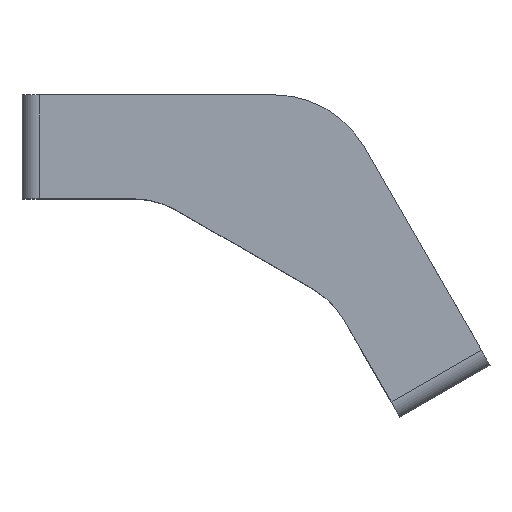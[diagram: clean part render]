
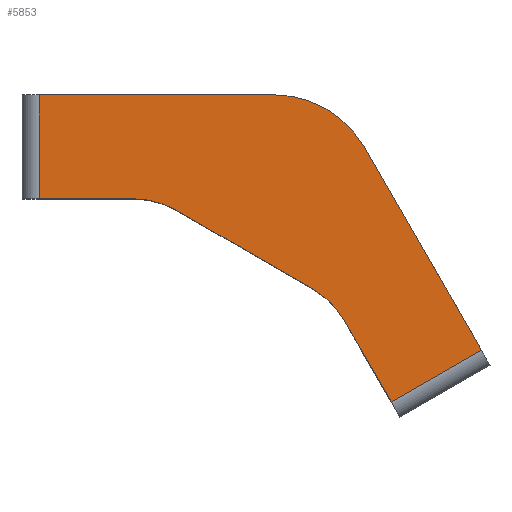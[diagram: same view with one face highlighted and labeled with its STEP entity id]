
A CAD part, top view. The second image highlights one B-rep face of the part: STEP entity #5853.
In plain terms, the highlighted planar face has unit normal (0, 0, 1).
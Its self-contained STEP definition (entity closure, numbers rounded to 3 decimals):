
#154 = DIRECTION ( 'NONE',  ( 0., 0., -1. ) ) ;
#298 = CARTESIAN_POINT ( 'NONE',  ( 3.464, 6., 10. ) ) ;
#313 = CIRCLE ( 'NONE', #2858, 5. ) ;
#558 = CARTESIAN_POINT ( 'NONE',  ( -1.732, 3., 10. ) ) ;
#1213 = DIRECTION ( 'NONE',  ( 0.5, -0.866, 0. ) ) ;
#1246 = EDGE_CURVE ( 'NONE', #1857, #3808, #1535, .T. ) ;
#1260 = LINE ( 'NONE', #558, #1425 ) ;
#1365 = CARTESIAN_POINT ( 'NONE',  ( -0.59, 13.021, 10. ) ) ;
#1425 = VECTOR ( 'NONE', #1213, 1000. ) ;
#1513 = CARTESIAN_POINT ( 'NONE',  ( -3.304, 17.722, 10. ) ) ;
#1535 = LINE ( 'NONE', #2320, #7571 ) ;
#1538 = ORIENTED_EDGE ( 'NONE', *, *, #4193, .T. ) ;
#1708 = PLANE ( 'NONE',  #6805 ) ;
#1709 = DIRECTION ( 'NONE',  ( 1., 0., 0. ) ) ;
#1857 = VERTEX_POINT ( 'NONE', #8983 ) ;
#2029 = CARTESIAN_POINT ( 'NONE',  ( -8.5, 14.722, 10. ) ) ;
#2076 = EDGE_CURVE ( 'NONE', #3302, #4692, #2698, .T. ) ;
#2113 = CIRCLE ( 'NONE', #6454, 6. ) ;
#2202 = ORIENTED_EDGE ( 'NONE', *, *, #9281, .T. ) ;
#2266 = VECTOR ( 'NONE', #7925, 1000. ) ;
#2320 = CARTESIAN_POINT ( 'NONE',  ( 18., 6., 10. ) ) ;
#2354 = CARTESIAN_POINT ( 'NONE',  ( 3.464, 6., 10. ) ) ;
#2483 = VECTOR ( 'NONE', #2503, 1000. ) ;
#2503 = DIRECTION ( 'NONE',  ( -0.5, 0.866, 0. ) ) ;
#2582 = VECTOR ( 'NONE', #9288, 1000. ) ;
#2629 = ORIENTED_EDGE ( 'NONE', *, *, #3090, .F. ) ;
#2646 = CARTESIAN_POINT ( 'NONE',  ( 3.464, 6., 10. ) ) ;
#2698 = LINE ( 'NONE', #5651, #2582 ) ;
#2784 = CARTESIAN_POINT ( 'NONE',  ( -8.5, 14.722, 10. ) ) ;
#2794 = ORIENTED_EDGE ( 'NONE', *, *, #3014, .T. ) ;
#2811 = CARTESIAN_POINT ( 'NONE',  ( 5.156, 8.931, 10. ) ) ;
#2835 = EDGE_CURVE ( 'NONE', #3808, #6401, #313, .T. ) ;
#2858 = AXIS2_PLACEMENT_3D ( 'NONE', #5205, #154, #8096 ) ;
#3014 = EDGE_CURVE ( 'NONE', #7534, #3096, #7667, .T. ) ;
#3045 = CIRCLE ( 'NONE', #7861, 5. ) ;
#3090 = EDGE_CURVE ( 'NONE', #5933, #6401, #8645, .T. ) ;
#3096 = VERTEX_POINT ( 'NONE', #2029 ) ;
#3302 = VERTEX_POINT ( 'NONE', #5459 ) ;
#3364 = CARTESIAN_POINT ( 'NONE',  ( 11.572, 6., 10. ) ) ;
#3462 = EDGE_CURVE ( 'NONE', #4692, #1857, #5654, .T. ) ;
#3808 = VERTEX_POINT ( 'NONE', #3364 ) ;
#4141 = CARTESIAN_POINT ( 'NONE',  ( 17., 6., 10. ) ) ;
#4193 = EDGE_CURVE ( 'NONE', #5226, #7534, #7430, .T. ) ;
#4288 = CARTESIAN_POINT ( 'NONE',  ( 3.74, 15.521, 10. ) ) ;
#4330 = DIRECTION ( 'NONE',  ( -1., 0., 0. ) ) ;
#4354 = VECTOR ( 'NONE', #5741, 1000. ) ;
#4502 = DIRECTION ( 'NONE',  ( 0., 0., 1. ) ) ;
#4530 = ORIENTED_EDGE ( 'NONE', *, *, #2076, .T. ) ;
#4546 = DIRECTION ( 'NONE',  ( 0., 0., 1. ) ) ;
#4649 = ORIENTED_EDGE ( 'NONE', *, *, #2835, .T. ) ;
#4692 = VERTEX_POINT ( 'NONE', #6035 ) ;
#4995 = EDGE_LOOP ( 'NONE', ( #2629, #5485, #1538, #2794, #7615, #2202, #4530, #7815, #6097, #4649 ) ) ;
#5205 = CARTESIAN_POINT ( 'NONE',  ( 11.572, 11., 10. ) ) ;
#5226 = VERTEX_POINT ( 'NONE', #1365 ) ;
#5459 = CARTESIAN_POINT ( 'NONE',  ( 3.464, 0., 10. ) ) ;
#5485 = ORIENTED_EDGE ( 'NONE', *, *, #5768, .T. ) ;
#5651 = CARTESIAN_POINT ( 'NONE',  ( 18., 0., 10. ) ) ;
#5654 = LINE ( 'NONE', #4141, #4354 ) ;
#5671 = EDGE_CURVE ( 'NONE', #3096, #7037, #1260, .T. ) ;
#5741 = DIRECTION ( 'NONE',  ( 0., 1., 0. ) ) ;
#5768 = EDGE_CURVE ( 'NONE', #5933, #5226, #3045, .T. ) ;
#5792 = DIRECTION ( 'NONE',  ( 1., 0., 0. ) ) ;
#5853 = ADVANCED_FACE ( 'NONE', ( #5965 ), #1708, .T. ) ;
#5862 = VECTOR ( 'NONE', #7110, 1000. ) ;
#5878 = DIRECTION ( 'NONE',  ( 0., 0., -1. ) ) ;
#5933 = VERTEX_POINT ( 'NONE', #6064 ) ;
#5965 = FACE_OUTER_BOUND ( 'NONE', #4995, .T. ) ;
#6035 = CARTESIAN_POINT ( 'NONE',  ( 17., 0., 10. ) ) ;
#6064 = CARTESIAN_POINT ( 'NONE',  ( 1.24, 11.191, 10. ) ) ;
#6097 = ORIENTED_EDGE ( 'NONE', *, *, #1246, .T. ) ;
#6401 = VERTEX_POINT ( 'NONE', #7658 ) ;
#6454 = AXIS2_PLACEMENT_3D ( 'NONE', #2646, #4546, #1709 ) ;
#6805 = AXIS2_PLACEMENT_3D ( 'NONE', #2354, #4502, #8898 ) ;
#7037 = VERTEX_POINT ( 'NONE', #8141 ) ;
#7110 = DIRECTION ( 'NONE',  ( -0.866, -0.5, 0. ) ) ;
#7430 = LINE ( 'NONE', #298, #2483 ) ;
#7534 = VERTEX_POINT ( 'NONE', #1513 ) ;
#7571 = VECTOR ( 'NONE', #4330, 1000. ) ;
#7615 = ORIENTED_EDGE ( 'NONE', *, *, #5671, .T. ) ;
#7658 = CARTESIAN_POINT ( 'NONE',  ( 9.072, 6.67, 10. ) ) ;
#7667 = LINE ( 'NONE', #2784, #5862 ) ;
#7815 = ORIENTED_EDGE ( 'NONE', *, *, #3462, .T. ) ;
#7861 = AXIS2_PLACEMENT_3D ( 'NONE', #4288, #5878, #5792 ) ;
#7925 = DIRECTION ( 'NONE',  ( 0.866, -0.5, 0. ) ) ;
#8096 = DIRECTION ( 'NONE',  ( 1., 0., 0. ) ) ;
#8141 = CARTESIAN_POINT ( 'NONE',  ( -1.732, 3., 10. ) ) ;
#8645 = LINE ( 'NONE', #2811, #2266 ) ;
#8898 = DIRECTION ( 'NONE',  ( 1., 0., 0. ) ) ;
#8983 = CARTESIAN_POINT ( 'NONE',  ( 17., 6., 10. ) ) ;
#9281 = EDGE_CURVE ( 'NONE', #7037, #3302, #2113, .T. ) ;
#9288 = DIRECTION ( 'NONE',  ( 1., 0., 0. ) ) ;
